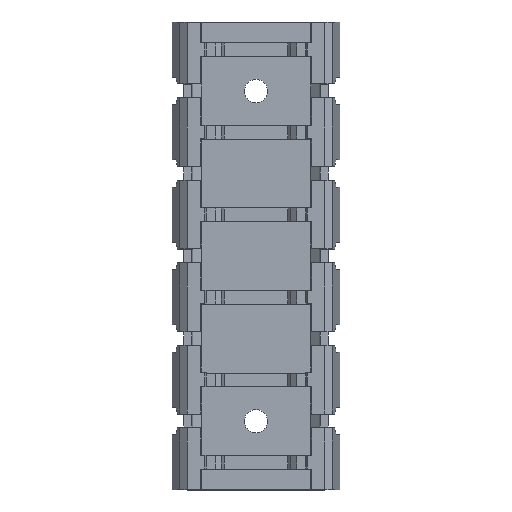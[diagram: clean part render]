
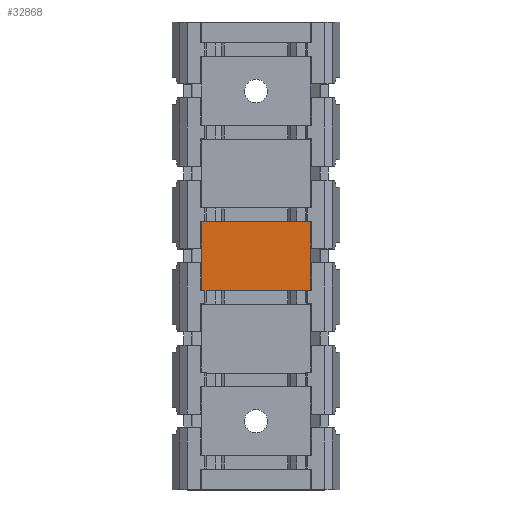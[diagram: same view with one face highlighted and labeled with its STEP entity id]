
A CAD part, top view. The second image highlights one B-rep face of the part: STEP entity #32868.
In plain terms, the highlighted planar face has unit normal (0, 0, 1).
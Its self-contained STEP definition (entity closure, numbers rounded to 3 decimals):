
#14872 = PLANE('',#14873);
#14873 = AXIS2_PLACEMENT_3D('',#14874,#14875,#14876);
#14874 = CARTESIAN_POINT('',(0.,5.,13.1));
#14875 = DIRECTION('',(0.,-1.,0.));
#14876 = DIRECTION('',(1.,0.,0.));
#14900 = PLANE('',#14901);
#14901 = AXIS2_PLACEMENT_3D('',#14902,#14903,#14904);
#14902 = CARTESIAN_POINT('',(8.58,-70.,1.692));
#14903 = DIRECTION('',(-0.643,0.,0.766));
#14904 = DIRECTION('',(0.766,0.,0.643));
#14928 = PLANE('',#14929);
#14929 = AXIS2_PLACEMENT_3D('',#14930,#14931,#14932);
#14930 = CARTESIAN_POINT('',(0.,-5.,13.1));
#14931 = DIRECTION('',(0.,1.,0.));
#14932 = DIRECTION('',(0.,0.,1.));
#19259 = PLANE('',#19260);
#19260 = AXIS2_PLACEMENT_3D('',#19261,#19262,#19263);
#19261 = CARTESIAN_POINT('',(-8.58,-70.,1.692));
#19262 = DIRECTION('',(0.643,0.,0.766));
#19263 = DIRECTION('',(0.766,0.,-0.643));
#24176 = VERTEX_POINT('',#24177);
#24177 = CARTESIAN_POINT('',(-7.993,5.,1.2));
#24198 = EDGE_CURVE('',#24199,#24176,#24201,.T.);
#24199 = VERTEX_POINT('',#24200);
#24200 = CARTESIAN_POINT('',(7.993,5.,1.2));
#24201 = SURFACE_CURVE('',#24202,(#24206,#24213),.PCURVE_S1.);
#24202 = LINE('',#24203,#24204);
#24203 = CARTESIAN_POINT('',(5.,5.,1.2));
#24204 = VECTOR('',#24205,1.);
#24205 = DIRECTION('',(-1.,0.,0.));
#24206 = PCURVE('',#14872,#24207);
#24207 = DEFINITIONAL_REPRESENTATION('',(#24208),#24212);
#24208 = LINE('',#24209,#24210);
#24209 = CARTESIAN_POINT('',(5.,-11.9));
#24210 = VECTOR('',#24211,1.);
#24211 = DIRECTION('',(-1.,0.));
#24212 = ( GEOMETRIC_REPRESENTATION_CONTEXT(2) 
PARAMETRIC_REPRESENTATION_CONTEXT() REPRESENTATION_CONTEXT('2D SPACE',''
  ) );
#24213 = PCURVE('',#24214,#24219);
#24214 = PLANE('',#24215);
#24215 = AXIS2_PLACEMENT_3D('',#24216,#24217,#24218);
#24216 = CARTESIAN_POINT('',(10.,-70.,1.2));
#24217 = DIRECTION('',(0.,0.,-1.));
#24218 = DIRECTION('',(-1.,0.,0.));
#24219 = DEFINITIONAL_REPRESENTATION('',(#24220),#24224);
#24220 = LINE('',#24221,#24222);
#24221 = CARTESIAN_POINT('',(5.,75.));
#24222 = VECTOR('',#24223,1.);
#24223 = DIRECTION('',(1.,0.));
#24224 = ( GEOMETRIC_REPRESENTATION_CONTEXT(2) 
PARAMETRIC_REPRESENTATION_CONTEXT() REPRESENTATION_CONTEXT('2D SPACE',''
  ) );
#24649 = EDGE_CURVE('',#24199,#24650,#24652,.T.);
#24650 = VERTEX_POINT('',#24651);
#24651 = CARTESIAN_POINT('',(7.993,-5.,1.2));
#24652 = SURFACE_CURVE('',#24653,(#24657,#24664),.PCURVE_S1.);
#24653 = LINE('',#24654,#24655);
#24654 = CARTESIAN_POINT('',(7.993,-70.,1.2));
#24655 = VECTOR('',#24656,1.);
#24656 = DIRECTION('',(0.,-1.,0.));
#24657 = PCURVE('',#14900,#24658);
#24658 = DEFINITIONAL_REPRESENTATION('',(#24659),#24663);
#24659 = LINE('',#24660,#24661);
#24660 = CARTESIAN_POINT('',(-0.766,0.));
#24661 = VECTOR('',#24662,1.);
#24662 = DIRECTION('',(0.,-1.));
#24663 = ( GEOMETRIC_REPRESENTATION_CONTEXT(2) 
PARAMETRIC_REPRESENTATION_CONTEXT() REPRESENTATION_CONTEXT('2D SPACE',''
  ) );
#24664 = PCURVE('',#24214,#24665);
#24665 = DEFINITIONAL_REPRESENTATION('',(#24666),#24670);
#24666 = LINE('',#24667,#24668);
#24667 = CARTESIAN_POINT('',(2.007,0.));
#24668 = VECTOR('',#24669,1.);
#24669 = DIRECTION('',(0.,-1.));
#24670 = ( GEOMETRIC_REPRESENTATION_CONTEXT(2) 
PARAMETRIC_REPRESENTATION_CONTEXT() REPRESENTATION_CONTEXT('2D SPACE',''
  ) );
#24909 = EDGE_CURVE('',#24910,#24650,#24912,.T.);
#24910 = VERTEX_POINT('',#24911);
#24911 = CARTESIAN_POINT('',(-7.993,-5.,1.2));
#24912 = SURFACE_CURVE('',#24913,(#24917,#24924),.PCURVE_S1.);
#24913 = LINE('',#24914,#24915);
#24914 = CARTESIAN_POINT('',(5.,-5.,1.2));
#24915 = VECTOR('',#24916,1.);
#24916 = DIRECTION('',(1.,0.,0.));
#24917 = PCURVE('',#14928,#24918);
#24918 = DEFINITIONAL_REPRESENTATION('',(#24919),#24923);
#24919 = LINE('',#24920,#24921);
#24920 = CARTESIAN_POINT('',(-11.9,5.));
#24921 = VECTOR('',#24922,1.);
#24922 = DIRECTION('',(0.,1.));
#24923 = ( GEOMETRIC_REPRESENTATION_CONTEXT(2) 
PARAMETRIC_REPRESENTATION_CONTEXT() REPRESENTATION_CONTEXT('2D SPACE',''
  ) );
#24924 = PCURVE('',#24214,#24925);
#24925 = DEFINITIONAL_REPRESENTATION('',(#24926),#24930);
#24926 = LINE('',#24927,#24928);
#24927 = CARTESIAN_POINT('',(5.,65.));
#24928 = VECTOR('',#24929,1.);
#24929 = DIRECTION('',(-1.,0.));
#24930 = ( GEOMETRIC_REPRESENTATION_CONTEXT(2) 
PARAMETRIC_REPRESENTATION_CONTEXT() REPRESENTATION_CONTEXT('2D SPACE',''
  ) );
#30956 = EDGE_CURVE('',#24910,#24176,#30957,.T.);
#30957 = SURFACE_CURVE('',#30958,(#30962,#30969),.PCURVE_S1.);
#30958 = LINE('',#30959,#30960);
#30959 = CARTESIAN_POINT('',(-7.993,-70.,1.2));
#30960 = VECTOR('',#30961,1.);
#30961 = DIRECTION('',(0.,1.,0.));
#30962 = PCURVE('',#19259,#30963);
#30963 = DEFINITIONAL_REPRESENTATION('',(#30964),#30968);
#30964 = LINE('',#30965,#30966);
#30965 = CARTESIAN_POINT('',(0.766,0.));
#30966 = VECTOR('',#30967,1.);
#30967 = DIRECTION('',(0.,1.));
#30968 = ( GEOMETRIC_REPRESENTATION_CONTEXT(2) 
PARAMETRIC_REPRESENTATION_CONTEXT() REPRESENTATION_CONTEXT('2D SPACE',''
  ) );
#30969 = PCURVE('',#24214,#30970);
#30970 = DEFINITIONAL_REPRESENTATION('',(#30971),#30975);
#30971 = LINE('',#30972,#30973);
#30972 = CARTESIAN_POINT('',(17.993,0.));
#30973 = VECTOR('',#30974,1.);
#30974 = DIRECTION('',(0.,1.));
#30975 = ( GEOMETRIC_REPRESENTATION_CONTEXT(2) 
PARAMETRIC_REPRESENTATION_CONTEXT() REPRESENTATION_CONTEXT('2D SPACE',''
  ) );
#32868 = ADVANCED_FACE('',(#32869),#24214,.F.);
#32869 = FACE_BOUND('',#32870,.T.);
#32870 = EDGE_LOOP('',(#32871,#32872,#32873,#32874));
#32871 = ORIENTED_EDGE('',*,*,#24198,.T.);
#32872 = ORIENTED_EDGE('',*,*,#30956,.F.);
#32873 = ORIENTED_EDGE('',*,*,#24909,.T.);
#32874 = ORIENTED_EDGE('',*,*,#24649,.F.);
